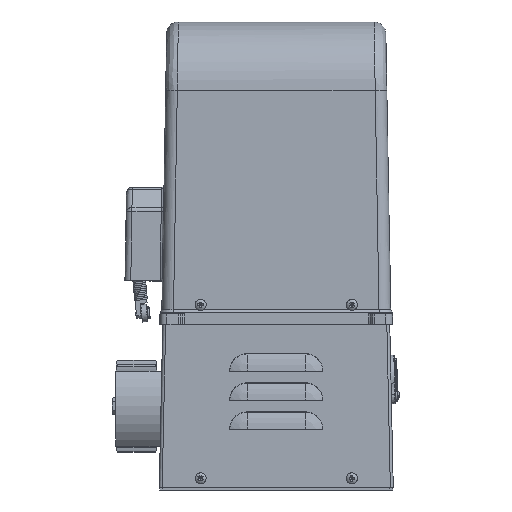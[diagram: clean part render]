
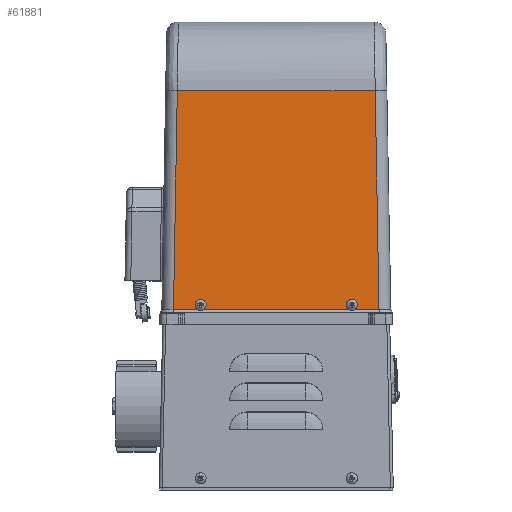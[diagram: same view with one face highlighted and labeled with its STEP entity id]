
A CAD part, left-side view. The second image highlights one B-rep face of the part: STEP entity #61881.
In plain terms, the highlighted planar face has unit normal (-1, 0, 0.018) as drawn and (0, -1, 0.017) by its records, which use the part's own axes.
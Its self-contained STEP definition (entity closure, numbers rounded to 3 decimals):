
#23=(
BOUNDED_CURVE()
B_SPLINE_CURVE(3,(#114303,#114304,#114305,#114306,#114307,#114308,#114309),
 .UNSPECIFIED.,.F.,.F.)
B_SPLINE_CURVE_WITH_KNOTS((4,3,4),(0.,0.333,1.),
 .PIECEWISE_BEZIER_KNOTS.)
CURVE()
GEOMETRIC_REPRESENTATION_ITEM()
RATIONAL_B_SPLINE_CURVE((1.,1.,1.,1.,1.,1.,1.))
REPRESENTATION_ITEM('')
);
#24=(
BOUNDED_CURVE()
B_SPLINE_CURVE(3,(#114310,#114311,#114312,#114313,#114314,#114315,#114316),
 .UNSPECIFIED.,.F.,.F.)
B_SPLINE_CURVE_WITH_KNOTS((4,3,4),(0.,0.333,1.),
 .PIECEWISE_BEZIER_KNOTS.)
CURVE()
GEOMETRIC_REPRESENTATION_ITEM()
RATIONAL_B_SPLINE_CURVE((1.,1.,1.,1.,1.,1.,1.))
REPRESENTATION_ITEM('')
);
#1882=ELLIPSE('',#67392,2.5,2.5);
#1883=ELLIPSE('',#67393,2.5,2.5);
#5587=LINE('',#114147,#9802);
#5647=LINE('',#114300,#9862);
#9802=VECTOR('',#81585,1000.);
#9862=VECTOR('',#81679,1000.);
#11747=PLANE('',#67391);
#25301=ORIENTED_EDGE('',*,*,#33622,.T.);
#25302=ORIENTED_EDGE('',*,*,#33623,.T.);
#25303=ORIENTED_EDGE('',*,*,#33624,.T.);
#25304=ORIENTED_EDGE('',*,*,#33625,.T.);
#25305=ORIENTED_EDGE('',*,*,#33554,.F.);
#25306=ORIENTED_EDGE('',*,*,#33626,.T.);
#33554=EDGE_CURVE('',#38635,#38636,#5587,.F.);
#33622=EDGE_CURVE('',#38693,#38693,#1882,.F.);
#33623=EDGE_CURVE('',#38694,#38694,#1883,.F.);
#33624=EDGE_CURVE('',#38695,#38696,#5647,.F.);
#33625=EDGE_CURVE('',#38696,#38636,#23,.T.);
#33626=EDGE_CURVE('',#38635,#38695,#24,.F.);
#38635=VERTEX_POINT('',#114146);
#38636=VERTEX_POINT('',#114148);
#38693=VERTEX_POINT('',#114297);
#38694=VERTEX_POINT('',#114299);
#38695=VERTEX_POINT('',#114301);
#38696=VERTEX_POINT('',#114302);
#44740=EDGE_LOOP('',(#25301));
#44741=EDGE_LOOP('',(#25302));
#44742=EDGE_LOOP('',(#25303,#25304,#25305,#25306));
#48511=FACE_BOUND('',#44740,.T.);
#48512=FACE_BOUND('',#44741,.T.);
#48513=FACE_BOUND('',#44742,.T.);
#61881=ADVANCED_FACE('',(#48511,#48512,#48513),#11747,.T.);
#67391=AXIS2_PLACEMENT_3D('',#114295,#81673,#81674);
#67392=AXIS2_PLACEMENT_3D('',#114296,#81675,#81676);
#67393=AXIS2_PLACEMENT_3D('',#114298,#81677,#81678);
#81585=DIRECTION('',(1.,0.,0.));
#81673=DIRECTION('',(0.,-1.,0.017));
#81674=DIRECTION('',(0.,-0.017,-1.));
#81675=DIRECTION('',(0.,-1.,0.017));
#81676=DIRECTION('',(0.,-0.017,-1.));
#81677=DIRECTION('',(0.,-1.,0.017));
#81678=DIRECTION('',(0.,-0.017,-1.));
#81679=DIRECTION('',(1.,0.,0.));
#114146=CARTESIAN_POINT('',(88.275,4.227,13.));
#114147=CARTESIAN_POINT('',(0.,4.227,13.));
#114148=CARTESIAN_POINT('',(-88.275,4.227,13.));
#114295=CARTESIAN_POINT('',(0.,4.,0.));
#114296=CARTESIAN_POINT('',(65.,4.297,17.));
#114297=CARTESIAN_POINT('',(65.,4.253,14.5));
#114298=CARTESIAN_POINT('',(-65.,4.297,17.));
#114299=CARTESIAN_POINT('',(-65.,4.253,14.5));
#114300=CARTESIAN_POINT('',(-93.962,7.509,201.047));
#114301=CARTESIAN_POINT('',(84.992,7.509,201.047));
#114302=CARTESIAN_POINT('',(-84.992,7.509,201.047));
#114303=CARTESIAN_POINT('',(-84.992,7.509,201.047));
#114304=CARTESIAN_POINT('',(-86.087,6.414,138.307));
#114305=CARTESIAN_POINT('',(-87.183,5.319,75.566));
#114306=CARTESIAN_POINT('',(-88.278,4.224,12.826));
#114307=CARTESIAN_POINT('',(-90.468,2.034,-112.655));
#114308=CARTESIAN_POINT('',(-92.658,-0.157,-238.137));
#114309=CARTESIAN_POINT('',(-94.848,-2.347,-363.618));
#114310=CARTESIAN_POINT('',(84.992,7.509,201.047));
#114311=CARTESIAN_POINT('',(86.087,6.414,138.307));
#114312=CARTESIAN_POINT('',(87.183,5.319,75.566));
#114313=CARTESIAN_POINT('',(88.278,4.224,12.826));
#114314=CARTESIAN_POINT('',(90.468,2.034,-112.655));
#114315=CARTESIAN_POINT('',(92.658,-0.157,-238.137));
#114316=CARTESIAN_POINT('',(94.848,-2.347,-363.618));
